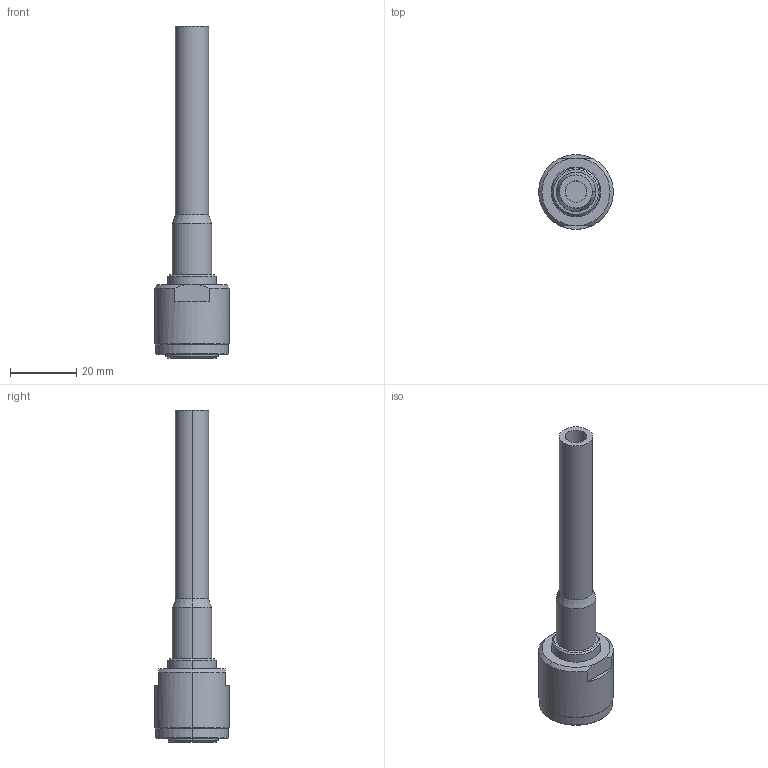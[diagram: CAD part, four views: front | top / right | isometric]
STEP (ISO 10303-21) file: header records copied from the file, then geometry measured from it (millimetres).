
FILE_DESCRIPTION (( 'STEP AP203' ), '1' );
FILE_NAME ('C14-124X Cable 4 Pin.STEP', '2025-09-25T14:20:24', ( '' ), ( '' ), 'SwSTEP 2.0', 'SolidWorks 2024', '' );
FILE_SCHEMA (( 'CONFIG_CONTROL_DESIGN' ));
Length unit declared in the file: millimetre
Products named in the file (1): C14-124X Cable 4 Pin
Bounding box: 22.5 x 22.5 x 100 mm (x, y, z)
Volume: 10870.3 mm3; surface area: 9704.5 mm2
Topology: 3 solids, 3 shells, 148 faces, 324 edges, 196 vertices
Faces by surface type: cylinder 61, cone 41, plane 27, torus 16, bspline 3
Entity records: 5389 total; most frequent: CARTESIAN_POINT 2060, DIRECTION 735, ORIENTED_EDGE 648, EDGE_CURVE 324, AXIS2_PLACEMENT_3D 311, VERTEX_POINT 196, EDGE_LOOP 166, CIRCLE 165
